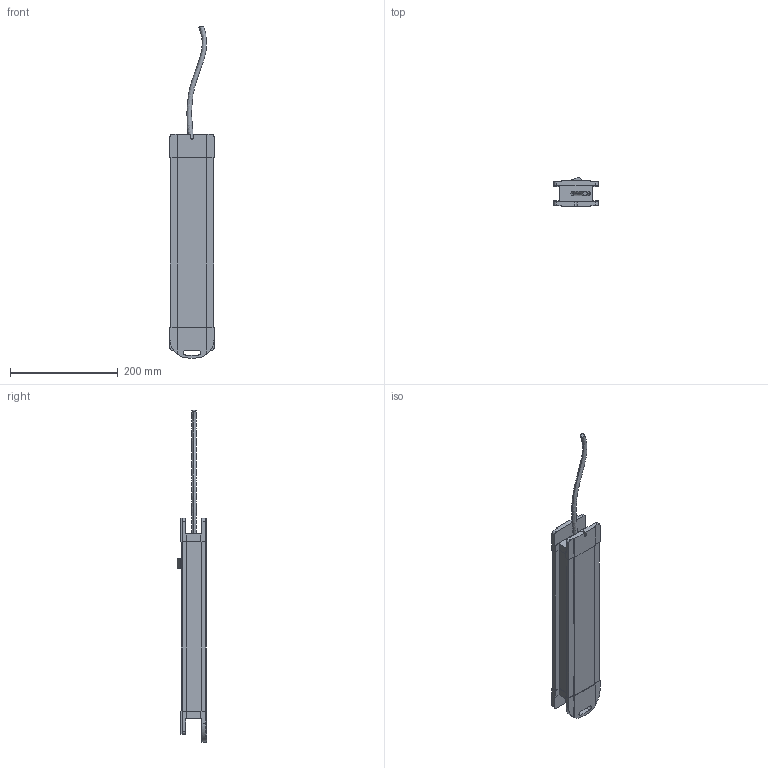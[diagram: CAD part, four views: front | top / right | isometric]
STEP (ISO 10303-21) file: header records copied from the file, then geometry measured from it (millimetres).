
FILE_DESCRIPTION (( 'STEP AP214' ), '1' );
FILE_NAME ('1600913_5.STEP', '2026-01-13T15:05:19', ( '' ), ( '' ), 'SwSTEP 2.0', 'SolidWorks 2024', '' );
FILE_SCHEMA (( 'AUTOMOTIVE_DESIGN' ));
Length unit declared in the file: millimetre
Products named in the file (1): 1600913_5
Bounding box: 82 x 55 x 616.08 mm (x, y, z)
Volume: 1027208.7 mm3; surface area: 149154.1 mm2
Topology: 2 solids, 2 shells, 114 faces, 303 edges, 202 vertices
Faces by surface type: plane 89, cylinder 23, bspline 2
Entity records: 3763 total; most frequent: CARTESIAN_POINT 840, ORIENTED_EDGE 606, DIRECTION 579, EDGE_CURVE 303, LINE 249, VECTOR 249, VERTEX_POINT 202, AXIS2_PLACEMENT_3D 165
